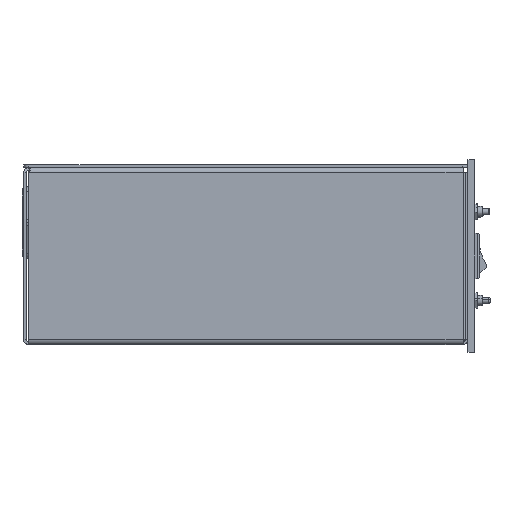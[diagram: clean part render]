
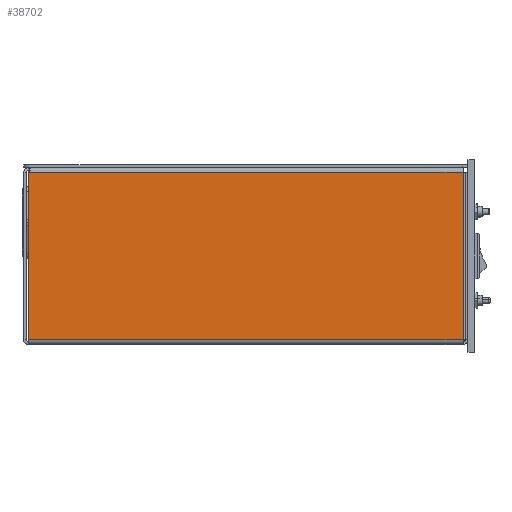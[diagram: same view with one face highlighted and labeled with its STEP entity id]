
A CAD part, left-side view. The second image highlights one B-rep face of the part: STEP entity #38702.
In plain terms, the highlighted planar face has unit normal (-1, 0, 0).
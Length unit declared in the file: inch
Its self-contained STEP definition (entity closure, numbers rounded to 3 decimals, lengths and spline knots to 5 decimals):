
#390 = CARTESIAN_POINT ( 'NONE',  ( -0.08737, 7.825, 0.03937 ) ) ;
#567 = CARTESIAN_POINT ( 'NONE',  ( -0.08737, 0., 3.05263 ) ) ;
#679 = DIRECTION ( 'NONE',  ( 0., 0., -1. ) ) ;
#6467 = VECTOR ( 'NONE', #16822, 39.37008 ) ;
#10171 = EDGE_CURVE ( 'NONE', #45747, #33732, #35636, .T. ) ;
#14126 = CARTESIAN_POINT ( 'NONE',  ( -0.08737, 0., 3.05263 ) ) ;
#14210 = CARTESIAN_POINT ( 'NONE',  ( -0.08737, 0., 0.03937 ) ) ;
#16822 = DIRECTION ( 'NONE',  ( 0., 1., 0. ) ) ;
#17817 = VERTEX_POINT ( 'NONE', #14126 ) ;
#17944 = ORIENTED_EDGE ( 'NONE', *, *, #25245, .T. ) ;
#20821 = LINE ( 'NONE', #390, #6467 ) ;
#24062 = ORIENTED_EDGE ( 'NONE', *, *, #10171, .T. ) ;
#25245 = EDGE_CURVE ( 'NONE', #17817, #45747, #28701, .T. ) ;
#27415 = LINE ( 'NONE', #51854, #28488 ) ;
#28081 = VECTOR ( 'NONE', #44899, 39.37008 ) ;
#28119 = CARTESIAN_POINT ( 'NONE',  ( -0.08737, 7.825, 3.05263 ) ) ;
#28338 = VECTOR ( 'NONE', #30835, 39.37008 ) ;
#28488 = VECTOR ( 'NONE', #48679, 39.37008 ) ;
#28701 = LINE ( 'NONE', #567, #28081 ) ;
#29333 = PLANE ( 'NONE',  #34761 ) ;
#29591 = FACE_OUTER_BOUND ( 'NONE', #35588, .T. ) ;
#30835 = DIRECTION ( 'NONE',  ( 0., 0., -1. ) ) ;
#33083 = CARTESIAN_POINT ( 'NONE',  ( -0.08737, 0., 0. ) ) ;
#33732 = VERTEX_POINT ( 'NONE', #39828 ) ;
#34761 = AXIS2_PLACEMENT_3D ( 'NONE', #33083, #45801, #679 ) ;
#35120 = CARTESIAN_POINT ( 'NONE',  ( -0.08737, 7.825, 0. ) ) ;
#35588 = EDGE_LOOP ( 'NONE', ( #17944, #24062, #42265, #47777 ) ) ;
#35636 = LINE ( 'NONE', #35120, #28338 ) ;
#36855 = EDGE_CURVE ( 'NONE', #37998, #33732, #20821, .T. ) ;
#37998 = VERTEX_POINT ( 'NONE', #14210 ) ;
#38702 = ADVANCED_FACE ( 'NONE', ( #29591 ), #29333, .F. ) ;
#39828 = CARTESIAN_POINT ( 'NONE',  ( -0.08737, 7.825, 0.03937 ) ) ;
#42265 = ORIENTED_EDGE ( 'NONE', *, *, #36855, .F. ) ;
#44899 = DIRECTION ( 'NONE',  ( 0., 1., 0. ) ) ;
#45747 = VERTEX_POINT ( 'NONE', #28119 ) ;
#45801 = DIRECTION ( 'NONE',  ( 1., 0., 0. ) ) ;
#47777 = ORIENTED_EDGE ( 'NONE', *, *, #50709, .T. ) ;
#48679 = DIRECTION ( 'NONE',  ( 0., 0., 1. ) ) ;
#50709 = EDGE_CURVE ( 'NONE', #37998, #17817, #27415, .T. ) ;
#51854 = CARTESIAN_POINT ( 'NONE',  ( -0.08737, 0., 0. ) ) ;
